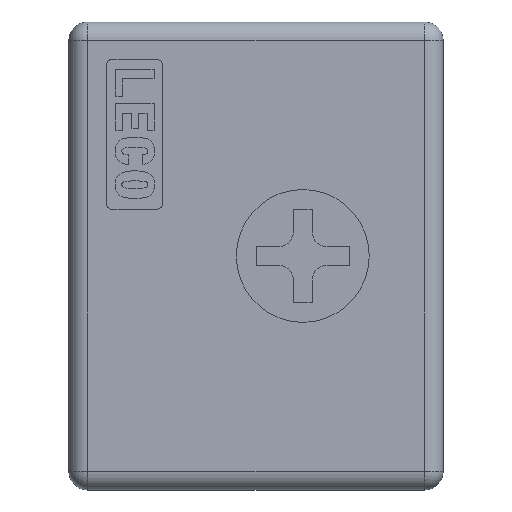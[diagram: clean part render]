
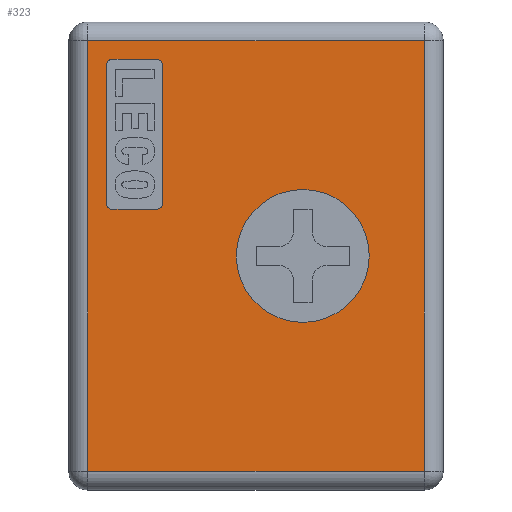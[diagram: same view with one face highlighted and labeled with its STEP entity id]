
A CAD part, top view. The second image highlights one B-rep face of the part: STEP entity #323.
In plain terms, the highlighted planar face has unit normal (0, 0, 1).
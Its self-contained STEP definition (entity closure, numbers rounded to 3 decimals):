
#323=ADVANCED_FACE('',(#696,#697,#698),#699,.F.);
#696=FACE_BOUND('',#1113,.T.);
#697=FACE_OUTER_BOUND('',#1114,.T.);
#698=FACE_BOUND('',#1115,.T.);
#699=PLANE('',#1116);
#1113=EDGE_LOOP('',(#2016,#2017,#2018,#2019,#2020,#2021,#2022,#2023));
#1114=EDGE_LOOP('',(#2024,#2025,#2026,#2027));
#1115=EDGE_LOOP('',(#2028));
#1116=AXIS2_PLACEMENT_3D('',#2029,#2030,#2031);
#2016=ORIENTED_EDGE('',*,*,#2823,.F.);
#2017=ORIENTED_EDGE('',*,*,#2866,.F.);
#2018=ORIENTED_EDGE('',*,*,#2867,.F.);
#2019=ORIENTED_EDGE('',*,*,#2744,.F.);
#2020=ORIENTED_EDGE('',*,*,#2868,.F.);
#2021=ORIENTED_EDGE('',*,*,#2869,.F.);
#2022=ORIENTED_EDGE('',*,*,#2760,.F.);
#2023=ORIENTED_EDGE('',*,*,#2588,.F.);
#2024=ORIENTED_EDGE('',*,*,#2632,.F.);
#2025=ORIENTED_EDGE('',*,*,#2870,.T.);
#2026=ORIENTED_EDGE('',*,*,#2785,.T.);
#2027=ORIENTED_EDGE('',*,*,#2531,.F.);
#2028=ORIENTED_EDGE('',*,*,#2503,.T.);
#2029=CARTESIAN_POINT('',(0.,1.0,3.));
#2030=DIRECTION('',(0.0,0.0,-1.0));
#2031=DIRECTION('',(-1.0,0.0,0.0));
#2503=EDGE_CURVE('',#2991,#2991,#2992,.T.);
#2531=EDGE_CURVE('',#3039,#3041,#3042,.T.);
#2588=EDGE_CURVE('',#3138,#3139,#3140,.T.);
#2632=EDGE_CURVE('',#3207,#3039,#3209,.T.);
#2744=EDGE_CURVE('',#3385,#3386,#3387,.T.);
#2760=EDGE_CURVE('',#3139,#3411,#3412,.T.);
#2785=EDGE_CURVE('',#3450,#3041,#3451,.T.);
#2823=EDGE_CURVE('',#3503,#3138,#3504,.T.);
#2866=EDGE_CURVE('',#3558,#3503,#3559,.T.);
#2867=EDGE_CURVE('',#3386,#3558,#3560,.T.);
#2868=EDGE_CURVE('',#3561,#3385,#3562,.T.);
#2869=EDGE_CURVE('',#3411,#3561,#3563,.T.);
#2870=EDGE_CURVE('',#3207,#3450,#3564,.T.);
#2991=VERTEX_POINT('',#3704);
#2992=CIRCLE('',#3705,3.55);
#3039=VERTEX_POINT('',#3786);
#3041=VERTEX_POINT('',#3788);
#3042=LINE('',#3789,#3790);
#3138=VERTEX_POINT('',#3921);
#3139=VERTEX_POINT('',#3922);
#3140=LINE('',#3923,#3924);
#3207=VERTEX_POINT('',#4016);
#3209=LINE('',#4018,#4019);
#3385=VERTEX_POINT('',#4267);
#3386=VERTEX_POINT('',#4268);
#3387=LINE('',#4269,#4270);
#3411=VERTEX_POINT('',#4305);
#3412=CIRCLE('',#4306,0.3);
#3450=VERTEX_POINT('',#4357);
#3451=LINE('',#4358,#4359);
#3503=VERTEX_POINT('',#4425);
#3504=CIRCLE('',#4426,0.3);
#3558=VERTEX_POINT('',#4507);
#3559=LINE('',#4508,#4509);
#3560=CIRCLE('',#4510,0.3);
#3561=VERTEX_POINT('',#4511);
#3562=CIRCLE('',#4512,0.3);
#3563=LINE('',#4513,#4514);
#3564=LINE('',#4515,#4516);
#3704=CARTESIAN_POINT('',(8.95,12.5,3.));
#3705=AXIS2_PLACEMENT_3D('',#4675,#4676,#4677);
#3786=CARTESIAN_POINT('',(1.,24.0,3.));
#3788=CARTESIAN_POINT('',(19.,24.0,3.));
#3789=CARTESIAN_POINT('',(0.,24.0,3.));
#3790=VECTOR('',#4703,1.0);
#3921=CARTESIAN_POINT('',(2.3,15.,3.));
#3922=CARTESIAN_POINT('',(4.7,15.,3.));
#3923=CARTESIAN_POINT('',(2.3,15.,3.));
#3924=VECTOR('',#4769,1.0);
#4016=CARTESIAN_POINT('',(1.,1.0,3.));
#4018=CARTESIAN_POINT('',(1.,0.,3.));
#4019=VECTOR('',#4826,1.0);
#4267=CARTESIAN_POINT('',(4.7,23.,3.));
#4268=CARTESIAN_POINT('',(2.3,23.,3.));
#4269=CARTESIAN_POINT('',(4.7,23.,3.));
#4270=VECTOR('',#4960,1.0);
#4305=CARTESIAN_POINT('',(5.,15.3,3.));
#4306=AXIS2_PLACEMENT_3D('',#4979,#4980,#4981);
#4357=CARTESIAN_POINT('',(19.,1.0,3.));
#4358=CARTESIAN_POINT('',(19.,0.,3.));
#4359=VECTOR('',#5010,1.0);
#4425=CARTESIAN_POINT('',(2.,15.3,3.));
#4426=AXIS2_PLACEMENT_3D('',#5082,#5083,#5084);
#4507=CARTESIAN_POINT('',(2.,22.7,3.));
#4508=CARTESIAN_POINT('',(2.,22.7,3.));
#4509=VECTOR('',#5122,1.0);
#4510=AXIS2_PLACEMENT_3D('',#5123,#5124,#5125);
#4511=CARTESIAN_POINT('',(5.,22.7,3.));
#4512=AXIS2_PLACEMENT_3D('',#5126,#5127,#5128);
#4513=CARTESIAN_POINT('',(5.,15.3,3.));
#4514=VECTOR('',#5129,1.0);
#4515=CARTESIAN_POINT('',(0.,1.0,3.));
#4516=VECTOR('',#5130,1.0);
#4675=CARTESIAN_POINT('',(12.5,12.5,3.));
#4676=DIRECTION('',(0.0,0.0,-1.0));
#4677=DIRECTION('',(-1.0,0.0,0.0));
#4703=DIRECTION('',(1.0,0.0,0.0));
#4769=DIRECTION('',(1.0,0.0,0.0));
#4826=DIRECTION('',(0.0,1.0,0.0));
#4960=DIRECTION('',(-1.0,0.,0.0));
#4979=CARTESIAN_POINT('',(4.7,15.3,3.));
#4980=DIRECTION('',(0.0,0.0,1.0));
#4981=DIRECTION('',(0.0,-1.0,0.0));
#5010=DIRECTION('',(0.0,1.0,0.0));
#5082=CARTESIAN_POINT('',(2.3,15.3,3.));
#5083=DIRECTION('',(0.0,0.0,1.0));
#5084=DIRECTION('',(0.0,-1.0,0.0));
#5122=DIRECTION('',(0.0,-1.0,0.0));
#5123=CARTESIAN_POINT('',(2.3,22.7,3.));
#5124=DIRECTION('',(0.0,0.0,1.0));
#5125=DIRECTION('',(0.0,-1.0,0.0));
#5126=CARTESIAN_POINT('',(4.7,22.7,3.));
#5127=DIRECTION('',(0.0,0.0,1.0));
#5128=DIRECTION('',(0.0,-1.0,0.0));
#5129=DIRECTION('',(0.0,1.0,0.0));
#5130=DIRECTION('',(1.0,0.0,0.0));
